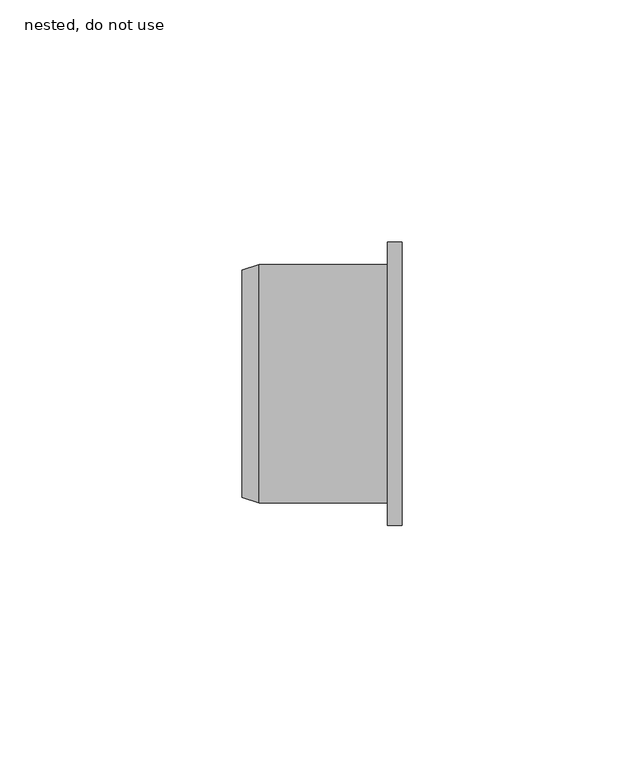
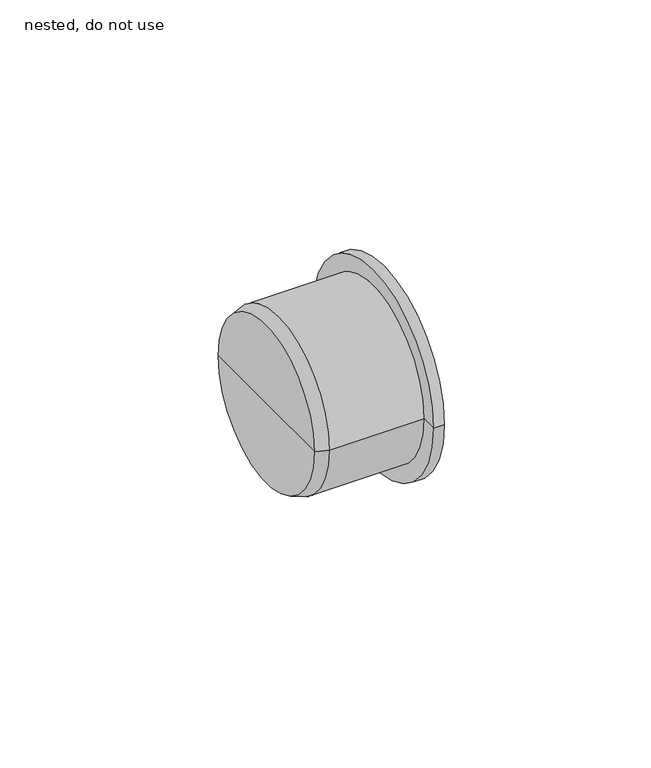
"""IFC4 building model written with IfcOpenShell, lengths in millimetres: pipe fitting geometry, NLRS_52_PIF_UN_HDPE protective cap for plugin socket -SH_Akatherm : nested, do not use."""

from ifc_helpers import new_model, si_unit, frame, origin, place, context, project, spatial, polyline, circle_curve, source, transform, mapped, element, save
from ifc_brep_helpers import plane_surface, cylinder_surface, revolved_surface, advanced_brep


def nested_do_not_use_c96243a7(model_context):
    return source(origin(), model_context, "Body", "AdvancedBrep", [
        advanced_brep(
        [(0.0, -29.25, 0.0), (0.0, 29.25, 0.0), (3.0, 29.25, 0.0), (3.0, -29.25, 0.0), (0.0, -24.6, 0.0), (0.0, 24.6, 0.0), (-26.5, -24.6, 0.0), (-26.5, 24.6, 0.0), (-30.0, -23.45, 0.0), (-30.0, 23.45, 0.0), (-30.0, 0.0, 0.0), (3.0, 0.0, 0.0)],
        [
            (0, 1, circle_curve(frame((0.0, 0.0, 0.0), z_axis=(1.0, 0.0, 0.0), x_axis=(0.0, 1.0, 0.0)), 29.25)),
            (1, 2),
            (2, 3, circle_curve(frame((3.0, 0.0, 0.0), z_axis=(-1.0, 0.0, 0.0), x_axis=(0.0, 1.0, 0.0)), 29.25)),
            (3, 0),
            (1, 0, circle_curve(frame((0.0, 0.0, 0.0), z_axis=(1.0, 0.0, 0.0), x_axis=(0.0, 1.0, 0.0)), 29.25)),
            (3, 2, circle_curve(frame((3.0, 0.0, 0.0), z_axis=(-1.0, 0.0, 0.0), x_axis=(0.0, 1.0, 0.0)), 29.25)),
            (4, 5, circle_curve(frame((0.0, 0.0, 0.0), z_axis=(1.0, 0.0, 0.0), x_axis=(0.0, 1.0, 0.0)), 24.6)),
            (5, 1),
            (0, 4),
            (5, 4, circle_curve(frame((0.0, 0.0, 0.0), z_axis=(1.0, 0.0, 0.0), x_axis=(0.0, 1.0, 0.0)), 24.6)),
            (6, 7, circle_curve(frame((-26.5, 0.0, 0.0), z_axis=(1.0, 0.0, 0.0), x_axis=(0.0, 1.0, 0.0)), 24.6)),
            (7, 5),
            (4, 6),
            (7, 6, circle_curve(frame((-26.5, 0.0, 0.0), z_axis=(1.0, 0.0, 0.0), x_axis=(0.0, 1.0, 0.0)), 24.6)),
            (8, 9, circle_curve(frame((-30.0, 0.0, 0.0), z_axis=(1.0, 0.0, 0.0), x_axis=(0.0, 1.0, 0.0)), 23.45)),
            (9, 7),
            (6, 8),
            (9, 8, circle_curve(frame((-30.0, 0.0, 0.0), z_axis=(1.0, 0.0, 0.0), x_axis=(0.0, 1.0, 0.0)), 23.45)),
            (10, 9),
            (8, 10),
            (2, 11),
            (11, 3),
        ],
        [
            cylinder_surface(frame((178.0, 0.0, 0.0), z_axis=(-1.0, 0.0, 0.0), x_axis=(0.0, 1.0, 0.0)), 29.25),
            plane_surface(frame((0.0, 0.0, 0.0), z_axis=(-1.0, 0.0, 0.0), x_axis=(0.0, 1.0, 0.0))),
            cylinder_surface(frame((178.0, 0.0, 0.0), z_axis=(-1.0, 0.0, 0.0), x_axis=(0.0, 1.0, 0.0)), 24.6),
            revolved_surface(polyline([(-26.5, 24.6, 0.0), (-30.0, 23.45, 0.0)]), (178.0, 0.0, 0.0), (-1.0, 0.0, 0.0)),
            plane_surface(frame((-30.0, 0.0, 0.0), z_axis=(-1.0, 0.0, 0.0), x_axis=(0.0, 1.0, 0.0))),
            plane_surface(frame((3.0, 0.0, 0.0), z_axis=(1.0, 0.0, 0.0), x_axis=(0.0, 1.0, 0.0))),
        ],
        [
            (0, [[1, 2, 3, 4]]),
            (0, [[5, -4, 6, -2]]),
            (1, [[7, 8, -1, 9]]),
            (1, [[10, -9, -5, -8]]),
            (2, [[11, 12, -7, 13]]),
            (2, [[14, -13, -10, -12]]),
            (3, [[15, 16, -11, 17]]),
            (3, [[18, -17, -14, -16]]),
            (4, [[19, -15, 20]]),
            (4, [[-20, -18, -19]]),
            (5, [[-3, 21, 22]]),
            (5, [[-6, -22, -21]]),
        ],
    ),
    ])


if __name__ == "__main__":
    model = new_model("IFC4")
    model_context = context("Model", 3, world=origin())
    ifc_project = project(units=[si_unit("LENGTHUNIT", "METRE", prefix="MILLI")], contexts=[model_context])
    site = spatial("IfcSite", under=ifc_project)
    building = spatial("IfcBuilding", under=site)
    placement = place(None, origin())
    nested_do_not_use_shape = nested_do_not_use_c96243a7(model_context)
    element("IfcPipeFitting", 1, ObjectType="NLRS_52_PIF_UN_HDPE protective cap for plugin socket -SH_Akatherm : nested, do not use", at=placement, inside=building, context=model_context, shape_type="MappedRepresentation", body=[
        mapped(nested_do_not_use_shape, transform((0.0, 0.0, 0.0), x_axis=(1.0, 0.0, 0.0), y_axis=(0.0, 1.0, 0.0), z_axis=(0.0, 0.0, 1.0))),
    ])
    save(model, "model.ifc")
